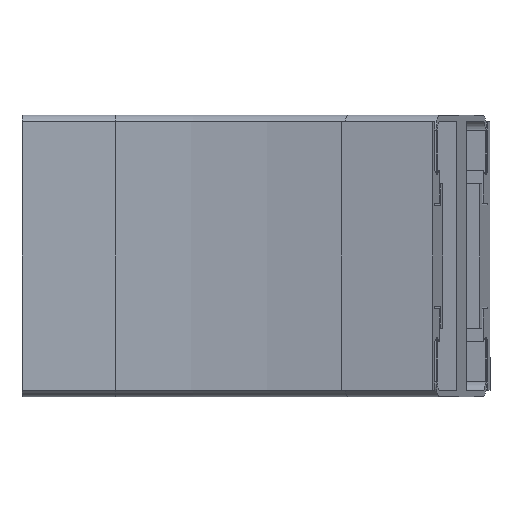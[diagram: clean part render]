
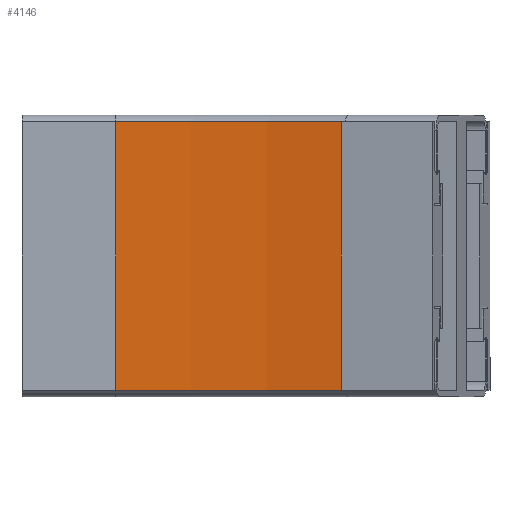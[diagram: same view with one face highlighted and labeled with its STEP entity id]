
A CAD part, front view. The second image highlights one B-rep face of the part: STEP entity #4146.
In plain terms, the highlighted cylindrical face has radius 443.5 mm (diameter 887 mm), a partial arc.
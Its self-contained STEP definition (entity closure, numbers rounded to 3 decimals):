
#224 = VECTOR ( 'NONE', #1936, 1000. ) ;
#255 = ORIENTED_EDGE ( 'NONE', *, *, #509, .T. ) ;
#426 = CARTESIAN_POINT ( 'NONE',  ( 40., -56.5, -57.15 ) ) ;
#509 = EDGE_CURVE ( 'NONE', #541, #3130, #3434, .T. ) ;
#541 = VERTEX_POINT ( 'NONE', #4371 ) ;
#786 = AXIS2_PLACEMENT_3D ( 'NONE', #3680, #2429, #2022 ) ;
#1593 = CIRCLE ( 'NONE', #3273, 443.5 ) ;
#1936 = DIRECTION ( 'NONE',  ( 0., 0., -1. ) ) ;
#2022 = DIRECTION ( 'NONE',  ( 1., 0., 0. ) ) ;
#2179 = DIRECTION ( 'NONE',  ( 0., 0., 1. ) ) ;
#2315 = DIRECTION ( 'NONE',  ( 0., 0., 1. ) ) ;
#2359 = DIRECTION ( 'NONE',  ( 1., 0., 0. ) ) ;
#2429 = DIRECTION ( 'NONE',  ( 0., 0., 1. ) ) ;
#2625 = CYLINDRICAL_SURFACE ( 'NONE', #786, 443.5 ) ;
#2646 = CARTESIAN_POINT ( 'NONE',  ( 135.991, -67.013, 57.15 ) ) ;
#2872 = ORIENTED_EDGE ( 'NONE', *, *, #3405, .F. ) ;
#2945 = CARTESIAN_POINT ( 'NONE',  ( 40., -56.5, 57.15 ) ) ;
#2961 = LINE ( 'NONE', #3222, #224 ) ;
#3130 = VERTEX_POINT ( 'NONE', #2646 ) ;
#3222 = CARTESIAN_POINT ( 'NONE',  ( 40., -56.5, 0. ) ) ;
#3273 = AXIS2_PLACEMENT_3D ( 'NONE', #5495, #5150, #5637 ) ;
#3405 = EDGE_CURVE ( 'NONE', #541, #4454, #4722, .T. ) ;
#3434 = LINE ( 'NONE', #3515, #4411 ) ;
#3515 = CARTESIAN_POINT ( 'NONE',  ( 135.991, -67.013, -57.15 ) ) ;
#3626 = CARTESIAN_POINT ( 'NONE',  ( 40., -500., -57.15 ) ) ;
#3680 = CARTESIAN_POINT ( 'NONE',  ( 40., -500., 0. ) ) ;
#3708 = AXIS2_PLACEMENT_3D ( 'NONE', #3626, #2315, #2359 ) ;
#4142 = EDGE_CURVE ( 'NONE', #5326, #4454, #2961, .T. ) ;
#4146 = ADVANCED_FACE ( 'NONE', ( #5210 ), #2625, .F. ) ;
#4371 = CARTESIAN_POINT ( 'NONE',  ( 135.991, -67.013, -57.15 ) ) ;
#4411 = VECTOR ( 'NONE', #2179, 1000. ) ;
#4454 = VERTEX_POINT ( 'NONE', #426 ) ;
#4722 = CIRCLE ( 'NONE', #3708, 443.5 ) ;
#4883 = EDGE_CURVE ( 'NONE', #3130, #5326, #1593, .T. ) ;
#5150 = DIRECTION ( 'NONE',  ( 0., 0., 1. ) ) ;
#5210 = FACE_OUTER_BOUND ( 'NONE', #5418, .T. ) ;
#5326 = VERTEX_POINT ( 'NONE', #2945 ) ;
#5405 = ORIENTED_EDGE ( 'NONE', *, *, #4883, .T. ) ;
#5418 = EDGE_LOOP ( 'NONE', ( #5644, #2872, #255, #5405 ) ) ;
#5495 = CARTESIAN_POINT ( 'NONE',  ( 40., -500., 57.15 ) ) ;
#5637 = DIRECTION ( 'NONE',  ( 1., 0., 0. ) ) ;
#5644 = ORIENTED_EDGE ( 'NONE', *, *, #4142, .T. ) ;
